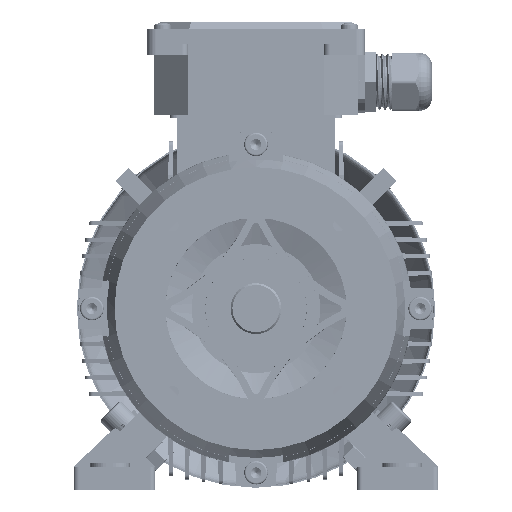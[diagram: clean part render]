
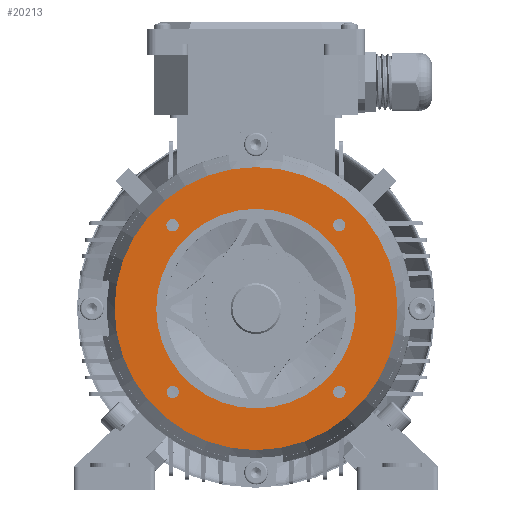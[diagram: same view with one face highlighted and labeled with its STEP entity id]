
A CAD part, front view. The second image highlights one B-rep face of the part: STEP entity #20213.
In plain terms, the highlighted planar face has unit normal (0, -1, 0).
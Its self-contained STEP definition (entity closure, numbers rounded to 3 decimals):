
#1330 = DIRECTION ( 'NONE',  ( 0., 0., -1. ) ) ;
#2218 = DIRECTION ( 'NONE',  ( 0., -1., 0. ) ) ;
#3328 = VERTEX_POINT ( 'NONE', #94019 ) ;
#5654 = DIRECTION ( 'NONE',  ( 0., 0., -1. ) ) ;
#6326 = ORIENTED_EDGE ( 'NONE', *, *, #89296, .F. ) ;
#7306 = AXIS2_PLACEMENT_3D ( 'NONE', #75807, #12675, #86428 ) ;
#8758 = DIRECTION ( 'NONE',  ( 0., -1., 0. ) ) ;
#9514 = ORIENTED_EDGE ( 'NONE', *, *, #79257, .T. ) ;
#9697 = EDGE_CURVE ( 'NONE', #114701, #92329, #103817, .T. ) ;
#12675 = DIRECTION ( 'NONE',  ( 0., -1., 0. ) ) ;
#13261 = FACE_BOUND ( 'NONE', #116057, .T. ) ;
#13855 = AXIS2_PLACEMENT_3D ( 'NONE', #71932, #8758, #82541 ) ;
#14086 = DIRECTION ( 'NONE',  ( 0., -1., 0. ) ) ;
#15901 = EDGE_CURVE ( 'NONE', #26189, #131051, #64932, .T. ) ;
#17475 = PLANE ( 'NONE',  #55925 ) ;
#17478 = DIRECTION ( 'NONE',  ( 0., -1., 0. ) ) ;
#20213 = ADVANCED_FACE ( 'NONE', ( #41286, #100776, #75926, #13261, #122177, #125499 ), #17475, .T. ) ;
#20773 = DIRECTION ( 'NONE',  ( 0., -1., 0. ) ) ;
#21729 = EDGE_CURVE ( 'NONE', #134996, #113450, #72241, .T. ) ;
#26189 = VERTEX_POINT ( 'NONE', #61532 ) ;
#26709 = CARTESIAN_POINT ( 'NONE',  ( 45.962, 21.003, 45.962 ) ) ;
#28073 = DIRECTION ( 'NONE',  ( 0., -1., 0. ) ) ;
#33213 = ORIENTED_EDGE ( 'NONE', *, *, #37510, .F. ) ;
#36110 = CARTESIAN_POINT ( 'NONE',  ( -45.962, 21.003, 49.362 ) ) ;
#36269 = EDGE_CURVE ( 'NONE', #113450, #134996, #129846, .T. ) ;
#37330 = DIRECTION ( 'NONE',  ( 0., 0., -1. ) ) ;
#37484 = CIRCLE ( 'NONE', #101603, 55. ) ;
#37510 = EDGE_CURVE ( 'NONE', #51415, #87271, #46973, .T. ) ;
#37525 = VERTEX_POINT ( 'NONE', #128425 ) ;
#39309 = CARTESIAN_POINT ( 'NONE',  ( 45.962, 21.003, -42.562 ) ) ;
#40131 = AXIS2_PLACEMENT_3D ( 'NONE', #26709, #100513, #37330 ) ;
#41286 = FACE_BOUND ( 'NONE', #94400, .T. ) ;
#41630 = AXIS2_PLACEMENT_3D ( 'NONE', #80601, #17478, #91200 ) ;
#42838 = AXIS2_PLACEMENT_3D ( 'NONE', #113815, #50572, #124451 ) ;
#44998 = EDGE_LOOP ( 'NONE', ( #33213, #75301 ) ) ;
#45386 = ORIENTED_EDGE ( 'NONE', *, *, #36269, .F. ) ;
#46973 = CIRCLE ( 'NONE', #7306, 55. ) ;
#47922 = CIRCLE ( 'NONE', #135957, 3.4 ) ;
#49032 = DIRECTION ( 'NONE',  ( 0., -1., 0. ) ) ;
#50572 = DIRECTION ( 'NONE',  ( 0., -1., 0. ) ) ;
#51415 = VERTEX_POINT ( 'NONE', #125797 ) ;
#51726 = AXIS2_PLACEMENT_3D ( 'NONE', #77219, #14086, #87819 ) ;
#52750 = CIRCLE ( 'NONE', #135104, 3.4 ) ;
#53019 = VERTEX_POINT ( 'NONE', #113392 ) ;
#55925 = AXIS2_PLACEMENT_3D ( 'NONE', #80597, #28073, #101865 ) ;
#57358 = CARTESIAN_POINT ( 'NONE',  ( 0., 21.003, -78. ) ) ;
#59701 = DIRECTION ( 'NONE',  ( 0., -1., 0. ) ) ;
#61532 = CARTESIAN_POINT ( 'NONE',  ( 0., 21.003, 78. ) ) ;
#62616 = AXIS2_PLACEMENT_3D ( 'NONE', #123001, #59701, #133576 ) ;
#63102 = ORIENTED_EDGE ( 'NONE', *, *, #136019, .F. ) ;
#63364 = AXIS2_PLACEMENT_3D ( 'NONE', #65374, #2218, #76016 ) ;
#64468 = DIRECTION ( 'NONE',  ( 0., -1., 0. ) ) ;
#64932 = CIRCLE ( 'NONE', #62616, 78. ) ;
#65374 = CARTESIAN_POINT ( 'NONE',  ( 0., 21.003, 0. ) ) ;
#66351 = CIRCLE ( 'NONE', #100981, 3.4 ) ;
#68832 = DIRECTION ( 'NONE',  ( 0., -1., 0. ) ) ;
#71398 = VERTEX_POINT ( 'NONE', #79024 ) ;
#71932 = CARTESIAN_POINT ( 'NONE',  ( -45.962, 21.003, -45.962 ) ) ;
#71973 = ORIENTED_EDGE ( 'NONE', *, *, #21729, .F. ) ;
#72083 = ORIENTED_EDGE ( 'NONE', *, *, #15901, .T. ) ;
#72122 = EDGE_CURVE ( 'NONE', #53019, #37525, #52750, .T. ) ;
#72241 = CIRCLE ( 'NONE', #42838, 3.4 ) ;
#75301 = ORIENTED_EDGE ( 'NONE', *, *, #128782, .F. ) ;
#75807 = CARTESIAN_POINT ( 'NONE',  ( 0., 21.003, 0. ) ) ;
#75926 = FACE_BOUND ( 'NONE', #89403, .T. ) ;
#76016 = DIRECTION ( 'NONE',  ( 0., 0., -1. ) ) ;
#77219 = CARTESIAN_POINT ( 'NONE',  ( -45.962, 21.003, 45.962 ) ) ;
#79024 = CARTESIAN_POINT ( 'NONE',  ( 45.962, 21.003, 49.362 ) ) ;
#79257 = EDGE_CURVE ( 'NONE', #131051, #26189, #94424, .T. ) ;
#79642 = ORIENTED_EDGE ( 'NONE', *, *, #103342, .F. ) ;
#80597 = CARTESIAN_POINT ( 'NONE',  ( 55., 21.003, 0. ) ) ;
#80601 = CARTESIAN_POINT ( 'NONE',  ( 45.962, 21.003, -45.962 ) ) ;
#82541 = DIRECTION ( 'NONE',  ( 0., 0., -1. ) ) ;
#83868 = CARTESIAN_POINT ( 'NONE',  ( -45.962, 21.003, 45.962 ) ) ;
#84204 = CARTESIAN_POINT ( 'NONE',  ( -45.962, 21.003, 42.562 ) ) ;
#85014 = EDGE_LOOP ( 'NONE', ( #79642, #6326 ) ) ;
#86428 = DIRECTION ( 'NONE',  ( 0., 0., -1. ) ) ;
#87271 = VERTEX_POINT ( 'NONE', #135506 ) ;
#87819 = DIRECTION ( 'NONE',  ( 0., 0., -1. ) ) ;
#89296 = EDGE_CURVE ( 'NONE', #71398, #3328, #47922, .T. ) ;
#89403 = EDGE_LOOP ( 'NONE', ( #136485, #63102 ) ) ;
#91200 = DIRECTION ( 'NONE',  ( 0., 0., -1. ) ) ;
#92329 = VERTEX_POINT ( 'NONE', #36110 ) ;
#93927 = EDGE_LOOP ( 'NONE', ( #72083, #9514 ) ) ;
#94019 = CARTESIAN_POINT ( 'NONE',  ( 45.962, 21.003, 42.562 ) ) ;
#94400 = EDGE_LOOP ( 'NONE', ( #94860, #111409 ) ) ;
#94424 = CIRCLE ( 'NONE', #63364, 78. ) ;
#94530 = DIRECTION ( 'NONE',  ( 0., 0., -1. ) ) ;
#94860 = ORIENTED_EDGE ( 'NONE', *, *, #9697, .F. ) ;
#100513 = DIRECTION ( 'NONE',  ( 0., -1., 0. ) ) ;
#100776 = FACE_BOUND ( 'NONE', #85014, .T. ) ;
#100981 = AXIS2_PLACEMENT_3D ( 'NONE', #83868, #20773, #94530 ) ;
#101603 = AXIS2_PLACEMENT_3D ( 'NONE', #132031, #68832, #5654 ) ;
#101861 = EDGE_CURVE ( 'NONE', #92329, #114701, #66351, .T. ) ;
#101865 = DIRECTION ( 'NONE',  ( 0., 0., -1. ) ) ;
#103342 = EDGE_CURVE ( 'NONE', #3328, #71398, #104055, .T. ) ;
#103817 = CIRCLE ( 'NONE', #51726, 3.4 ) ;
#104055 = CIRCLE ( 'NONE', #40131, 3.4 ) ;
#111409 = ORIENTED_EDGE ( 'NONE', *, *, #101861, .F. ) ;
#112279 = CARTESIAN_POINT ( 'NONE',  ( 45.962, 21.003, 45.962 ) ) ;
#113392 = CARTESIAN_POINT ( 'NONE',  ( -45.962, 21.003, -49.362 ) ) ;
#113450 = VERTEX_POINT ( 'NONE', #39309 ) ;
#113815 = CARTESIAN_POINT ( 'NONE',  ( 45.962, 21.003, -45.962 ) ) ;
#114701 = VERTEX_POINT ( 'NONE', #84204 ) ;
#116057 = EDGE_LOOP ( 'NONE', ( #71973, #45386 ) ) ;
#117999 = CARTESIAN_POINT ( 'NONE',  ( 45.962, 21.003, -49.362 ) ) ;
#122177 = FACE_OUTER_BOUND ( 'NONE', #93927, .T. ) ;
#122862 = DIRECTION ( 'NONE',  ( 0., 0., -1. ) ) ;
#123001 = CARTESIAN_POINT ( 'NONE',  ( 0., 21.003, 0. ) ) ;
#124451 = DIRECTION ( 'NONE',  ( 0., 0., -1. ) ) ;
#125499 = FACE_BOUND ( 'NONE', #44998, .T. ) ;
#125797 = CARTESIAN_POINT ( 'NONE',  ( 0., 21.003, -55. ) ) ;
#127729 = CARTESIAN_POINT ( 'NONE',  ( -45.962, 21.003, -45.962 ) ) ;
#128425 = CARTESIAN_POINT ( 'NONE',  ( -45.962, 21.003, -42.562 ) ) ;
#128782 = EDGE_CURVE ( 'NONE', #87271, #51415, #37484, .T. ) ;
#129846 = CIRCLE ( 'NONE', #41630, 3.4 ) ;
#131051 = VERTEX_POINT ( 'NONE', #57358 ) ;
#131982 = CIRCLE ( 'NONE', #13855, 3.4 ) ;
#132031 = CARTESIAN_POINT ( 'NONE',  ( 0., 21.003, 0. ) ) ;
#133576 = DIRECTION ( 'NONE',  ( 0., 0., -1. ) ) ;
#134996 = VERTEX_POINT ( 'NONE', #117999 ) ;
#135104 = AXIS2_PLACEMENT_3D ( 'NONE', #127729, #64468, #1330 ) ;
#135506 = CARTESIAN_POINT ( 'NONE',  ( 0., 21.003, 55. ) ) ;
#135957 = AXIS2_PLACEMENT_3D ( 'NONE', #112279, #49032, #122862 ) ;
#136019 = EDGE_CURVE ( 'NONE', #37525, #53019, #131982, .T. ) ;
#136485 = ORIENTED_EDGE ( 'NONE', *, *, #72122, .F. ) ;
